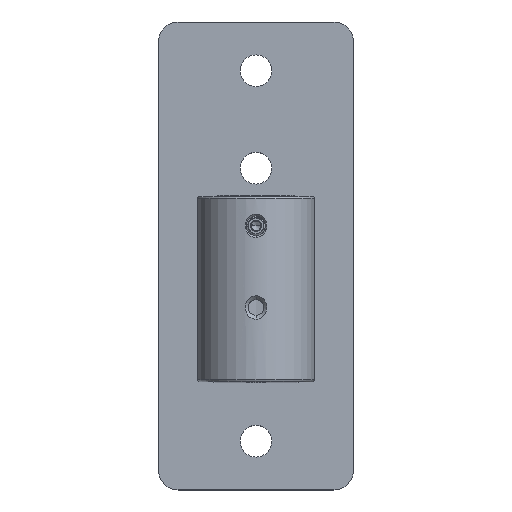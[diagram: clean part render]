
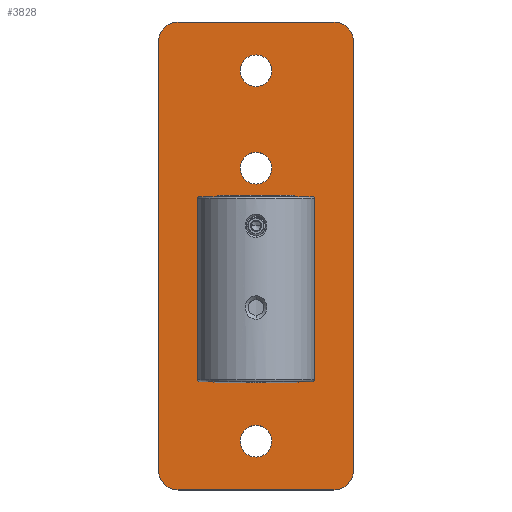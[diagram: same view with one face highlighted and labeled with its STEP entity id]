
A CAD part, top view. The second image highlights one B-rep face of the part: STEP entity #3828.
In plain terms, the highlighted planar face has unit normal (0, 0, 1).
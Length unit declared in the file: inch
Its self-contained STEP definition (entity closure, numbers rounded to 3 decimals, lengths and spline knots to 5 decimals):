
#215 = ORIENTED_EDGE ( 'NONE', *, *, #4950, .T. ) ;
#217 = ORIENTED_EDGE ( 'NONE', *, *, #559, .T. ) ;
#222 = ORIENTED_EDGE ( 'NONE', *, *, #624, .T. ) ;
#223 = ORIENTED_EDGE ( 'NONE', *, *, #4921, .T. ) ;
#230 = ORIENTED_EDGE ( 'NONE', *, *, #4943, .F. ) ;
#231 = ORIENTED_EDGE ( 'NONE', *, *, #4945, .T. ) ;
#235 = ORIENTED_EDGE ( 'NONE', *, *, #4946, .T. ) ;
#237 = ORIENTED_EDGE ( 'NONE', *, *, #4939, .T. ) ;
#243 = ORIENTED_EDGE ( 'NONE', *, *, #626, .T. ) ;
#248 = VERTEX_POINT ( 'NONE', #6203 ) ;
#261 = VERTEX_POINT ( 'NONE', #6226 ) ;
#262 = VERTEX_POINT ( 'NONE', #6208 ) ;
#264 = VERTEX_POINT ( 'NONE', #6236 ) ;
#266 = VERTEX_POINT ( 'NONE', #6231 ) ;
#269 = VERTEX_POINT ( 'NONE', #6223 ) ;
#273 = VERTEX_POINT ( 'NONE', #6214 ) ;
#274 = VERTEX_POINT ( 'NONE', #6204 ) ;
#275 = VERTEX_POINT ( 'NONE', #6228 ) ;
#286 = VERTEX_POINT ( 'NONE', #6234 ) ;
#289 = VERTEX_POINT ( 'NONE', #6238 ) ;
#290 = VERTEX_POINT ( 'NONE', #6216 ) ;
#291 = VERTEX_POINT ( 'NONE', #919 ) ;
#298 = VERTEX_POINT ( 'NONE', #341 ) ;
#341 = CARTESIAN_POINT ( 'NONE',  ( -1.25, -2.75, 0.375 ) ) ;
#559 = EDGE_CURVE ( 'NONE', #290, #286, #2811, .T. ) ;
#620 = EDGE_CURVE ( 'NONE', #262, #266, #2831, .T. ) ;
#624 = EDGE_CURVE ( 'NONE', #264, #298, #2823, .T. ) ;
#626 = EDGE_CURVE ( 'NONE', #273, #274, #2730, .T. ) ;
#629 = EDGE_CURVE ( 'NONE', #291, #275, #2727, .T. ) ;
#631 = EDGE_CURVE ( 'NONE', #261, #248, #2729, .T. ) ;
#673 = AXIS2_PLACEMENT_3D ( 'NONE', #4228, #4213, #4223 ) ;
#677 = AXIS2_PLACEMENT_3D ( 'NONE', #4194, #4199, #4203 ) ;
#681 = AXIS2_PLACEMENT_3D ( 'NONE', #4243, #4240, #4258 ) ;
#801 = EDGE_LOOP ( 'NONE', ( #4716, #4711 ) ) ;
#804 = EDGE_LOOP ( 'NONE', ( #222, #231, #217, #223, #243, #215, #235, #237 ) ) ;
#806 = EDGE_LOOP ( 'NONE', ( #230, #5535 ) ) ;
#834 = EDGE_LOOP ( 'NONE', ( #5534, #5532 ) ) ;
#919 = CARTESIAN_POINT ( 'NONE',  ( -0.203, 2.375, 0.375 ) ) ;
#1043 = CIRCLE ( 'NONE', #1821, 0.25 ) ;
#1059 = CIRCLE ( 'NONE', #1813, 0.203 ) ;
#1067 = CIRCLE ( 'NONE', #1793, 0.203 ) ;
#1070 = CIRCLE ( 'NONE', #1824, 0.25 ) ;
#1072 = CIRCLE ( 'NONE', #1791, 0.25 ) ;
#1084 = CIRCLE ( 'NONE', #1827, 0.25 ) ;
#1090 = CIRCLE ( 'NONE', #1815, 0.203 ) ;
#1096 = LINE ( 'NONE', #1216, #1097 ) ;
#1097 = VECTOR ( 'NONE', #1228, 39.37008 ) ;
#1156 = DIRECTION ( 'NONE',  ( 0., 0., 1. ) ) ;
#1176 = DIRECTION ( 'NONE',  ( -1., 0., 0. ) ) ;
#1191 = CARTESIAN_POINT ( 'NONE',  ( -1., 2.75, 0.375 ) ) ;
#1199 = CARTESIAN_POINT ( 'NONE',  ( 0., 2.375, 0.375 ) ) ;
#1206 = DIRECTION ( 'NONE',  ( 0., 0., 1. ) ) ;
#1209 = CARTESIAN_POINT ( 'NONE',  ( 0., 1.125, 0.375 ) ) ;
#1212 = CARTESIAN_POINT ( 'NONE',  ( -1., -2.75, 0.375 ) ) ;
#1213 = DIRECTION ( 'NONE',  ( 1., 0., 0. ) ) ;
#1214 = DIRECTION ( 'NONE',  ( -1., 0., 0. ) ) ;
#1215 = DIRECTION ( 'NONE',  ( 0., 0., 1. ) ) ;
#1216 = CARTESIAN_POINT ( 'NONE',  ( 1.25, 3., 0.375 ) ) ;
#1221 = CARTESIAN_POINT ( 'NONE',  ( 1., 2.75, 0.375 ) ) ;
#1223 = DIRECTION ( 'NONE',  ( 1., 0., 0. ) ) ;
#1227 = DIRECTION ( 'NONE',  ( 0., 0., 1. ) ) ;
#1228 = DIRECTION ( 'NONE',  ( -1., 0., 0. ) ) ;
#1232 = DIRECTION ( 'NONE',  ( 0., 0., 1. ) ) ;
#1233 = DIRECTION ( 'NONE',  ( -1., 0., 0. ) ) ;
#1589 = DIRECTION ( 'NONE',  ( -1., 0., 0. ) ) ;
#1593 = DIRECTION ( 'NONE',  ( 0., 0., 1. ) ) ;
#1598 = CARTESIAN_POINT ( 'NONE',  ( 0., -2.375, 0.375 ) ) ;
#1600 = DIRECTION ( 'NONE',  ( 1., 0., 0. ) ) ;
#1606 = CARTESIAN_POINT ( 'NONE',  ( 1., -2.75, 0.375 ) ) ;
#1609 = DIRECTION ( 'NONE',  ( 0., 0., 1. ) ) ;
#1791 = AXIS2_PLACEMENT_3D ( 'NONE', #1212, #1232, #1214 ) ;
#1793 = AXIS2_PLACEMENT_3D ( 'NONE', #1209, #1215, #1223 ) ;
#1813 = AXIS2_PLACEMENT_3D ( 'NONE', #1598, #1593, #1600 ) ;
#1815 = AXIS2_PLACEMENT_3D ( 'NONE', #1199, #1206, #1213 ) ;
#1821 = AXIS2_PLACEMENT_3D ( 'NONE', #1606, #1609, #1589 ) ;
#1824 = AXIS2_PLACEMENT_3D ( 'NONE', #1191, #1156, #1176 ) ;
#1827 = AXIS2_PLACEMENT_3D ( 'NONE', #1221, #1227, #1233 ) ;
#2727 = CIRCLE ( 'NONE', #673, 0.203 ) ;
#2729 = CIRCLE ( 'NONE', #681, 0.203 ) ;
#2730 = LINE ( 'NONE', #4197, #2732 ) ;
#2732 = VECTOR ( 'NONE', #4198, 39.37008 ) ;
#2754 = VECTOR ( 'NONE', #2847, 39.37008 ) ;
#2811 = LINE ( 'NONE', #2852, #2754 ) ;
#2823 = LINE ( 'NONE', #4196, #2825 ) ;
#2825 = VECTOR ( 'NONE', #4207, 39.37008 ) ;
#2831 = CIRCLE ( 'NONE', #677, 0.203 ) ;
#2847 = DIRECTION ( 'NONE',  ( 1., 0., 0. ) ) ;
#2852 = CARTESIAN_POINT ( 'NONE',  ( 1.25, -3., 0.375 ) ) ;
#3828 = ADVANCED_FACE ( 'NONE', ( #4469, #4462, #4464, #4436 ), #5606, .F. ) ;
#4006 = AXIS2_PLACEMENT_3D ( 'NONE', #5611, #5588, #5573 ) ;
#4194 = CARTESIAN_POINT ( 'NONE',  ( 0., -2.375, 0.375 ) ) ;
#4196 = CARTESIAN_POINT ( 'NONE',  ( -1.25, 3., 0.375 ) ) ;
#4197 = CARTESIAN_POINT ( 'NONE',  ( 1.25, 3., 0.375 ) ) ;
#4198 = DIRECTION ( 'NONE',  ( 0., 1., 0. ) ) ;
#4199 = DIRECTION ( 'NONE',  ( 0., 0., 1. ) ) ;
#4203 = DIRECTION ( 'NONE',  ( 1., 0., 0. ) ) ;
#4207 = DIRECTION ( 'NONE',  ( 0., -1., 0. ) ) ;
#4213 = DIRECTION ( 'NONE',  ( 0., 0., 1. ) ) ;
#4223 = DIRECTION ( 'NONE',  ( 1., 0., 0. ) ) ;
#4228 = CARTESIAN_POINT ( 'NONE',  ( 0., 2.375, 0.375 ) ) ;
#4240 = DIRECTION ( 'NONE',  ( 0., 0., 1. ) ) ;
#4243 = CARTESIAN_POINT ( 'NONE',  ( 0., 1.125, 0.375 ) ) ;
#4258 = DIRECTION ( 'NONE',  ( 1., 0., 0. ) ) ;
#4436 = FACE_OUTER_BOUND ( 'NONE', #804, .T. ) ;
#4462 = FACE_BOUND ( 'NONE', #806, .T. ) ;
#4464 = FACE_BOUND ( 'NONE', #801, .T. ) ;
#4469 = FACE_BOUND ( 'NONE', #834, .T. ) ;
#4711 = ORIENTED_EDGE ( 'NONE', *, *, #620, .F. ) ;
#4716 = ORIENTED_EDGE ( 'NONE', *, *, #4918, .F. ) ;
#4918 = EDGE_CURVE ( 'NONE', #266, #262, #1059, .T. ) ;
#4921 = EDGE_CURVE ( 'NONE', #286, #273, #1043, .T. ) ;
#4939 = EDGE_CURVE ( 'NONE', #289, #264, #1070, .T. ) ;
#4943 = EDGE_CURVE ( 'NONE', #248, #261, #1067, .T. ) ;
#4944 = EDGE_CURVE ( 'NONE', #275, #291, #1090, .T. ) ;
#4945 = EDGE_CURVE ( 'NONE', #298, #290, #1072, .T. ) ;
#4946 = EDGE_CURVE ( 'NONE', #269, #289, #1096, .T. ) ;
#4950 = EDGE_CURVE ( 'NONE', #274, #269, #1084, .T. ) ;
#5532 = ORIENTED_EDGE ( 'NONE', *, *, #629, .F. ) ;
#5534 = ORIENTED_EDGE ( 'NONE', *, *, #4944, .F. ) ;
#5535 = ORIENTED_EDGE ( 'NONE', *, *, #631, .F. ) ;
#5573 = DIRECTION ( 'NONE',  ( -1., 0., 0. ) ) ;
#5588 = DIRECTION ( 'NONE',  ( 0., 0., -1. ) ) ;
#5606 = PLANE ( 'NONE',  #4006 ) ;
#5611 = CARTESIAN_POINT ( 'NONE',  ( 0., 0., 0.375 ) ) ;
#6203 = CARTESIAN_POINT ( 'NONE',  ( 0.203, 1.125, 0.375 ) ) ;
#6204 = CARTESIAN_POINT ( 'NONE',  ( 1.25, 2.75, 0.375 ) ) ;
#6208 = CARTESIAN_POINT ( 'NONE',  ( -0.203, -2.375, 0.375 ) ) ;
#6214 = CARTESIAN_POINT ( 'NONE',  ( 1.25, -2.75, 0.375 ) ) ;
#6216 = CARTESIAN_POINT ( 'NONE',  ( -1., -3., 0.375 ) ) ;
#6223 = CARTESIAN_POINT ( 'NONE',  ( 1., 3., 0.375 ) ) ;
#6226 = CARTESIAN_POINT ( 'NONE',  ( -0.203, 1.125, 0.375 ) ) ;
#6228 = CARTESIAN_POINT ( 'NONE',  ( 0.203, 2.375, 0.375 ) ) ;
#6231 = CARTESIAN_POINT ( 'NONE',  ( 0.203, -2.375, 0.375 ) ) ;
#6234 = CARTESIAN_POINT ( 'NONE',  ( 1., -3., 0.375 ) ) ;
#6236 = CARTESIAN_POINT ( 'NONE',  ( -1.25, 2.75, 0.375 ) ) ;
#6238 = CARTESIAN_POINT ( 'NONE',  ( -1., 3., 0.375 ) ) ;
